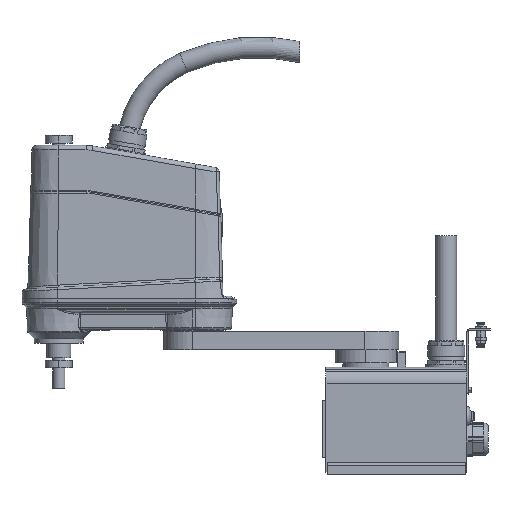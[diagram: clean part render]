
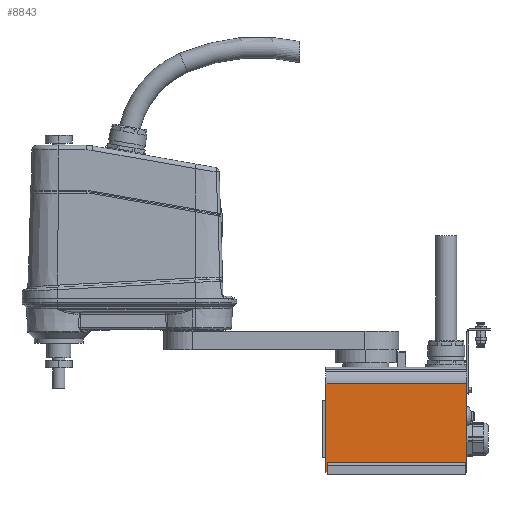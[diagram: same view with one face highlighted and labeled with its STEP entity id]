
A CAD part, top view. The second image highlights one B-rep face of the part: STEP entity #8843.
In plain terms, the highlighted planar face has unit normal (0, 0, 1).
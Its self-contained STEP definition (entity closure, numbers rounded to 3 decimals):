
#2090=DIRECTION('',(-1.,0.,0.));
#2091=VECTOR('',#2090,2.);
#2092=CARTESIAN_POINT('',(92.,118.419,52.));
#2093=LINE('',#2092,#2091);
#2094=DIRECTION('',(-1.,0.,0.));
#2095=VECTOR('',#2094,180.);
#2096=CARTESIAN_POINT('',(90.,118.419,52.));
#2097=LINE('',#2096,#2095);
#2098=DIRECTION('',(-1.,0.,0.));
#2099=VECTOR('',#2098,2.);
#2100=CARTESIAN_POINT('',(-90.,118.419,52.));
#2101=LINE('',#2100,#2099);
#2102=DIRECTION('',(0.,-1.,0.));
#2103=VECTOR('',#2102,115.419);
#2104=CARTESIAN_POINT('',(92.,118.419,52.));
#2105=LINE('',#2104,#2103);
#2106=DIRECTION('',(-1.,0.,0.));
#2107=VECTOR('',#2106,2.);
#2108=CARTESIAN_POINT('',(92.,3.,52.));
#2109=LINE('',#2108,#2107);
#2110=DIRECTION('',(-1.,0.,0.));
#2111=VECTOR('',#2110,180.);
#2112=CARTESIAN_POINT('',(90.,15.,52.));
#2113=LINE('',#2112,#2111);
#2114=DIRECTION('',(-1.,0.,0.));
#2115=VECTOR('',#2114,2.);
#2116=CARTESIAN_POINT('',(-90.,3.,52.));
#2117=LINE('',#2116,#2115);
#2118=DIRECTION('',(0.,1.,0.));
#2119=VECTOR('',#2118,115.419);
#2120=CARTESIAN_POINT('',(-92.,3.,52.));
#2121=LINE('',#2120,#2119);
#2190=DIRECTION('',(0.,-1.,0.));
#2191=VECTOR('',#2190,12.);
#2192=CARTESIAN_POINT('',(90.,15.,52.));
#2193=LINE('',#2192,#2191);
#2316=DIRECTION('',(0.,-1.,0.));
#2317=VECTOR('',#2316,12.);
#2318=CARTESIAN_POINT('',(-90.,15.,52.));
#2319=LINE('',#2318,#2317);
#4454=CARTESIAN_POINT('',(-92.,118.419,52.));
#4455=VERTEX_POINT('',#4454);
#4456=CARTESIAN_POINT('',(-92.,3.,52.));
#4457=VERTEX_POINT('',#4456);
#4466=CARTESIAN_POINT('',(92.,3.,52.));
#4467=VERTEX_POINT('',#4466);
#4468=CARTESIAN_POINT('',(92.,118.419,52.));
#4469=VERTEX_POINT('',#4468);
#5222=CARTESIAN_POINT('',(-90.,3.,52.));
#5224=VERTEX_POINT('',#5222);
#5228=CARTESIAN_POINT('',(-90.,15.,52.));
#5229=VERTEX_POINT('',#5228);
#5232=CARTESIAN_POINT('',(-90.,118.419,52.));
#5233=VERTEX_POINT('',#5232);
#5242=CARTESIAN_POINT('',(90.,3.,52.));
#5244=VERTEX_POINT('',#5242);
#5248=CARTESIAN_POINT('',(90.,15.,52.));
#5249=VERTEX_POINT('',#5248);
#5254=CARTESIAN_POINT('',(90.,118.419,52.));
#5255=VERTEX_POINT('',#5254);
#8820=CARTESIAN_POINT('',(0.,66.709,52.));
#8821=DIRECTION('',(0.,0.,1.));
#8822=DIRECTION('',(0.,1.,0.));
#8823=AXIS2_PLACEMENT_3D('',#8820,#8821,#8822);
#8824=PLANE('',#8823);
#8825=ORIENTED_EDGE('',*,*,#8804,.F.);
#8826=ORIENTED_EDGE('',*,*,#8802,.F.);
#8827=ORIENTED_EDGE('',*,*,#5833,.T.);
#8829=ORIENTED_EDGE('',*,*,#8828,.T.);
#8831=ORIENTED_EDGE('',*,*,#8830,.F.);
#8833=ORIENTED_EDGE('',*,*,#8832,.T.);
#8835=ORIENTED_EDGE('',*,*,#8834,.T.);
#8837=ORIENTED_EDGE('',*,*,#8836,.T.);
#8839=ORIENTED_EDGE('',*,*,#8838,.T.);
#8840=ORIENTED_EDGE('',*,*,#8806,.F.);
#8841=EDGE_LOOP('',(#8825,#8826,#8827,#8829,#8831,#8833,#8835,#8837,#8839,
#8840));
#8842=FACE_OUTER_BOUND('',#8841,.F.);
#5833=EDGE_CURVE('',#4469,#4467,#2105,.T.);
#8802=EDGE_CURVE('',#4469,#5255,#2093,.T.);
#8804=EDGE_CURVE('',#5255,#5233,#2097,.T.);
#8806=EDGE_CURVE('',#5233,#4455,#2101,.T.);
#8828=EDGE_CURVE('',#4467,#5244,#2109,.T.);
#8830=EDGE_CURVE('',#5249,#5244,#2193,.T.);
#8832=EDGE_CURVE('',#5249,#5229,#2113,.T.);
#8834=EDGE_CURVE('',#5229,#5224,#2319,.T.);
#8836=EDGE_CURVE('',#5224,#4457,#2117,.T.);
#8838=EDGE_CURVE('',#4457,#4455,#2121,.T.);
#8843=ADVANCED_FACE('',(#8842),#8824,.T.);
